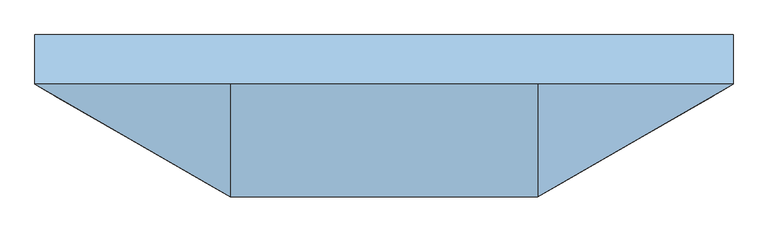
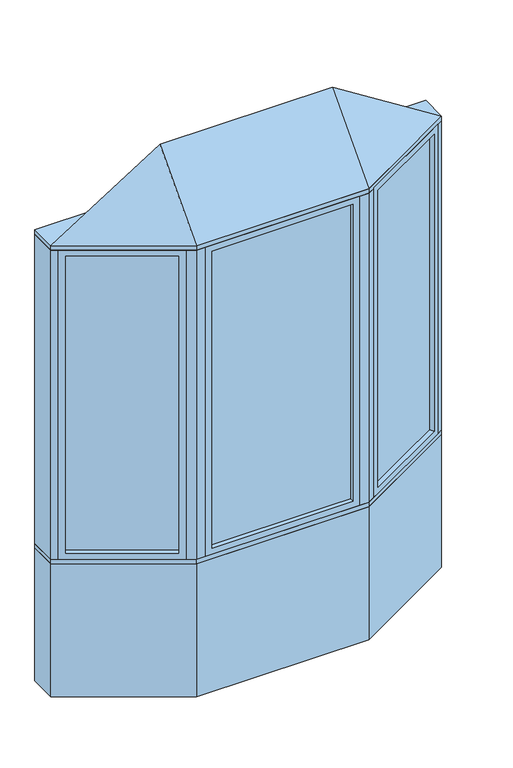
"""IFC4 building model written with IfcOpenShell, lengths in millimetres: window geometry, Pollard_Windows_Tudor Casement Bows and Bays : AML-BAY 30 AFR0618-10-600."""

from ifc_helpers import new_model, si_unit, frame, origin, origin_with_axes, place, context, project, spatial, polyline, outline, extrude, faceted_brep, source, transform, mapped, element, save


def window_d624beb0(model_context):
    return source(origin(), model_context, "Body", "SolidModel", [
        extrude(outline(polyline([(1013.112102, -82.0482469), (524.8834764, -363.9271754), (522.3434764, -359.5277664), (1010.572102, -77.6488379), (1013.112102, -82.0482469)])), frame((0.0, 0.0, 823.1628), z_axis=(0.0, 0.0, 1.0), x_axis=(1.0, 0.0, 0.0)), (0.0, 0.0, 1.0), 1753.6704),
        faceted_brep([(1002.1135794, -88.3982469, 835.8628), (1014.8135794, -110.3952922, 835.8628), (1014.8135794, -110.3952922, 2564.1332), (1002.1135794, -88.3982469, 2564.1332), (1010.572102, -77.6488379, 823.1628), (1013.112102, -82.0482469, 823.1628), (1013.112102, -82.0482469, 2576.8332), (1010.572102, -77.6488379, 2576.8332), (986.8735794, -62.0017926, 835.8628), (999.5735794, -83.9988379, 835.8628), (999.5735794, -83.9988379, 2564.1332), (986.8735794, -62.0017926, 2564.1332), (1045.8734073, -92.4628922, 799.998), (1017.9334073, -44.0693926, 799.998), (1017.9334073, -44.0693926, 2599.998), (1045.8734073, -92.4628922, 2599.998), (548.581999, -379.5742207, 2564.1332), (535.881999, -357.5771754, 2564.1332), (524.8834764, -363.9271754, 2576.8332), (522.3434764, -359.5277664, 2576.8332), (533.341999, -353.1777664, 2564.1332), (520.641999, -331.1807211, 2564.1332), (489.5821711, -349.1131211, 2599.998), (517.5221711, -397.5066207, 2599.998), (548.581999, -379.5742207, 835.8628), (535.881999, -357.5771754, 835.8628), (524.8834764, -363.9271754, 823.1628), (522.3434764, -359.5277664, 823.1628), (533.341999, -353.1777664, 835.8628), (520.641999, -331.1807211, 835.8628), (489.5821711, -349.1131211, 799.998), (517.5221711, -397.5066207, 799.998)], [[[0, 1, 2, 3]], [[4, 5, 6, 7]], [[8, 9, 10, 11]], [[12, 13, 14, 15]], [[3, 2, 16, 17]], [[7, 6, 18, 19]], [[11, 10, 20, 21]], [[15, 14, 22, 23]], [[17, 16, 24, 25]], [[19, 18, 26, 27]], [[21, 20, 28, 29]], [[23, 22, 30, 31]], [[25, 24, 1, 0]], [[5, 26, 18, 6], [3, 17, 25, 0]], [[27, 26, 5, 4]], [[7, 19, 27, 4], [9, 28, 20, 10]], [[29, 28, 9, 8]], [[13, 30, 22, 14], [11, 21, 29, 8]], [[31, 30, 13, 12]], [[15, 23, 31, 12], [1, 24, 16, 2]]]),
        extrude(outline(polyline([(-524.8834764, -363.9271754), (-1013.112102, -82.0482469), (-1010.572102, -77.6488379), (-522.3434764, -359.5277664), (-524.8834764, -363.9271754)])), frame((0.0, 0.0, 823.1628), z_axis=(0.0, 0.0, 1.0), x_axis=(1.0, 0.0, 0.0)), (0.0, 0.0, 1.0), 1753.6704),
        faceted_brep([(-533.341999, -353.1777664, 2564.1332), (-520.641999, -331.1807211, 2564.1332), (-520.641999, -331.1807211, 835.8628), (-533.341999, -353.1777664, 835.8628), (-524.8834764, -363.9271754, 2576.8332), (-522.3434764, -359.5277664, 2576.8332), (-522.3434764, -359.5277664, 823.1628), (-524.8834764, -363.9271754, 823.1628), (-548.581999, -379.5742207, 2564.1332), (-535.881999, -357.5771754, 2564.1332), (-535.881999, -357.5771754, 835.8628), (-548.581999, -379.5742207, 835.8628), (-489.5821711, -349.1131211, 2599.998), (-517.5221711, -397.5066207, 2599.998), (-517.5221711, -397.5066207, 799.998), (-489.5821711, -349.1131211, 799.998), (-986.8735794, -62.0017926, 835.8628), (-999.5735794, -83.9988379, 835.8628), (-1010.572102, -77.6488379, 823.1628), (-1013.112102, -82.0482469, 823.1628), (-1002.1135794, -88.3982469, 835.8628), (-1014.8135794, -110.3952922, 835.8628), (-1045.8734073, -92.4628922, 799.998), (-1017.9334073, -44.0693926, 799.998), (-986.8735794, -62.0017926, 2564.1332), (-999.5735794, -83.9988379, 2564.1332), (-1010.572102, -77.6488379, 2576.8332), (-1013.112102, -82.0482469, 2576.8332), (-1002.1135794, -88.3982469, 2564.1332), (-1014.8135794, -110.3952922, 2564.1332), (-1045.8734073, -92.4628922, 2599.998), (-1017.9334073, -44.0693926, 2599.998)], [[[0, 1, 2, 3]], [[4, 5, 6, 7]], [[8, 9, 10, 11]], [[12, 13, 14, 15]], [[3, 2, 16, 17]], [[7, 6, 18, 19]], [[11, 10, 20, 21]], [[15, 14, 22, 23]], [[17, 16, 24, 25]], [[19, 18, 26, 27]], [[21, 20, 28, 29]], [[23, 22, 30, 31]], [[15, 23, 31, 12], [1, 24, 16, 2]], [[25, 24, 1, 0]], [[5, 26, 18, 6], [3, 17, 25, 0]], [[27, 26, 5, 4]], [[7, 19, 27, 4], [9, 28, 20, 10]], [[29, 28, 9, 8]], [[13, 30, 22, 14], [11, 21, 29, 8]], [[31, 30, 13, 12]]]),
        extrude(outline(polyline([(401.0561009, -397.1066207), (-401.0561009, -397.1066207), (-401.0561009, -392.0266207), (401.0561009, -392.0266207), (401.0561009, -397.1066207)])), frame((0.0, 0.0, 823.1628), z_axis=(0.0, 0.0, 1.0), x_axis=(1.0, 0.0, 0.0)), (0.0, 0.0, 1.0), 1753.6704),
        faceted_brep([(388.3561009, -397.1066207, 835.8628), (388.3561009, -422.5066207, 835.8628), (388.3561009, -422.5066207, 2564.1332), (388.3561009, -397.1066207, 2564.1332), (401.0561009, -392.0266207, 823.1628), (401.0561009, -397.1066207, 823.1628), (401.0561009, -397.1066207, 2576.8332), (401.0561009, -392.0266207, 2576.8332), (388.3561009, -366.6266207, 835.8628), (388.3561009, -392.0266207, 835.8628), (388.3561009, -392.0266207, 2564.1332), (388.3561009, -366.6266207, 2564.1332), (424.2209009, -422.5066207, 799.998), (424.2209009, -366.6266207, 799.998), (424.2209009, -366.6266207, 2599.998), (424.2209009, -422.5066207, 2599.998), (-388.3561009, -422.5066207, 2564.1332), (-388.3561009, -397.1066207, 2564.1332), (-401.0561009, -397.1066207, 2576.8332), (-401.0561009, -392.0266207, 2576.8332), (-388.3561009, -392.0266207, 2564.1332), (-388.3561009, -366.6266207, 2564.1332), (-424.2209009, -366.6266207, 2599.998), (-424.2209009, -422.5066207, 2599.998), (-388.3561009, -422.5066207, 835.8628), (-388.3561009, -397.1066207, 835.8628), (-401.0561009, -397.1066207, 823.1628), (-401.0561009, -392.0266207, 823.1628), (-388.3561009, -392.0266207, 835.8628), (-388.3561009, -366.6266207, 835.8628), (-424.2209009, -366.6266207, 799.998), (-424.2209009, -422.5066207, 799.998)], [[[0, 1, 2, 3]], [[4, 5, 6, 7]], [[8, 9, 10, 11]], [[12, 13, 14, 15]], [[3, 2, 16, 17]], [[7, 6, 18, 19]], [[11, 10, 20, 21]], [[15, 14, 22, 23]], [[17, 16, 24, 25]], [[19, 18, 26, 27]], [[21, 20, 28, 29]], [[23, 22, 30, 31]], [[15, 23, 31, 12], [1, 24, 16, 2]], [[25, 24, 1, 0]], [[5, 26, 18, 6], [3, 17, 25, 0]], [[27, 26, 5, 4]], [[7, 19, 27, 4], [9, 28, 20, 10]], [[29, 28, 9, 8]], [[13, 30, 22, 14], [11, 21, 29, 8]], [[31, 30, 13, 12]]]),
        faceted_brep([(1076.5, -74.7806207, 2625.398), (474.2209009, -422.5066207, 2625.398), (-474.2209009, -422.5066207, 2625.398), (-1076.5, -74.7806207, 2625.398), (-474.2209009, -74.7806207, 3006.398), (474.2209009, -74.7806207, 3006.398)], [[[0, 1, 2, 3]], [[3, 2, 4]], [[2, 1, 5, 4]], [[1, 0, 5]], [[0, 3, 4, 5]]]),
        extrude(outline(polyline([(-1076.5, 77.6193793), (1076.5, 77.6193793), (1076.5, -74.7806207), (474.2209009, -422.5066207), (-474.2209009, -422.5066207), (-1076.5, -74.7806207), (-1076.5, 77.6193793)])), frame((0.0, 0.0, 2599.998), z_axis=(0.0, 0.0, 1.0), x_axis=(1.0, 0.0, 0.0)), (0.0, 0.0, 1.0), 25.4),
        extrude(outline(polyline([(-1076.5, -74.7806207), (-1076.5, 77.6193793), (-1035.6645431, 77.6193793), (-1035.6645431, -74.7806207), (-1045.8734073, -92.4628922), (-1076.5, -74.7806207)])), frame((0.0, 0.0, 799.998), z_axis=(0.0, 0.0, 1.0), x_axis=(1.0, 0.0, 0.0)), (0.0, 0.0, 1.0), 1800.0),
        extrude(outline(polyline([(1076.5, 77.6193793), (1076.5, -74.7806207), (1045.8734073, -92.4628922), (1035.6645431, -74.7806207), (1035.6645431, 77.6193793), (1076.5, 77.6193793)])), frame((0.0, 0.0, 799.998), z_axis=(0.0, 0.0, 1.0), x_axis=(1.0, 0.0, 0.0)), (0.0, 0.0, 1.0), 1800.0),
        extrude(outline(polyline([(474.2209009, -422.5066207), (424.2209009, -422.5066207), (424.2209009, -372.5066207), (460.8234413, -372.5066207), (492.5221711, -354.2053505), (517.5221711, -397.5066207), (474.2209009, -422.5066207)])), frame((0.0, 0.0, 799.998), z_axis=(0.0, 0.0, 1.0), x_axis=(1.0, 0.0, 0.0)), (0.0, 0.0, 1.0), 1800.0),
        extrude(outline(polyline([(-474.2209009, -422.5066207), (-517.5221711, -397.5066207), (-492.5221711, -354.2053505), (-460.8234413, -372.5066207), (-424.2209009, -372.5066207), (-424.2209009, -422.5066207), (-474.2209009, -422.5066207)])), frame((0.0, 0.0, 799.998), z_axis=(0.0, 0.0, 1.0), x_axis=(1.0, 0.0, 0.0)), (0.0, 0.0, 1.0), 1800.0),
        extrude(outline(polyline([(-474.2209009, -422.5066207), (-1076.5, -74.7806207), (-1076.5, 77.6193793), (-1035.6645431, 77.6193793), (-433.385444, -270.1066207), (433.385444, -270.1066207), (1035.6645431, 77.6193793), (1076.5, 77.6193793), (1076.5, -74.7806207), (474.2209009, -422.5066207), (-474.2209009, -422.5066207)])), frame((0.0, 0.0, 774.598), z_axis=(0.0, 0.0, 1.0), x_axis=(1.0, 0.0, 0.0)), (0.0, 0.0, 1.0), 25.4),
        extrude(outline(polyline([(-1076.5, -74.7806207), (-1076.5, 77.6193793), (-1035.6645431, 77.6193793), (-433.385444, -270.1066207), (433.385444, -270.1066207), (1035.6645431, 77.6193793), (1076.5, 77.6193793), (1076.5, -74.7806207), (474.2209009, -422.5066207), (-474.2209009, -422.5066207), (-1076.5, -74.7806207)])), origin_with_axes(), (0.0, 0.0, 1.0), 774.598),
    ])


if __name__ == "__main__":
    model = new_model("IFC4")
    model_context = context("Model", 3, world=origin())
    ifc_project = project(units=[si_unit("LENGTHUNIT", "METRE", prefix="MILLI")], contexts=[model_context])
    site = spatial("IfcSite", under=ifc_project)
    building = spatial("IfcBuilding", under=site)
    placement = place(None, origin())
    window_shape = window_d624beb0(model_context)
    element("IfcWindow", 1, ObjectType="Pollard_Windows_Tudor Casement Bows and Bays : AML-BAY 30 AFR0618-10-600", at=placement, inside=building, context=model_context, shape_type="MappedRepresentation", body=[
        mapped(window_shape, transform((0.0, 0.0, 0.0), x_axis=(1.0, 0.0, 0.0), y_axis=(0.0, 1.0, 0.0), z_axis=(0.0, 0.0, 1.0))),
    ])
    save(model, "model.ifc")
